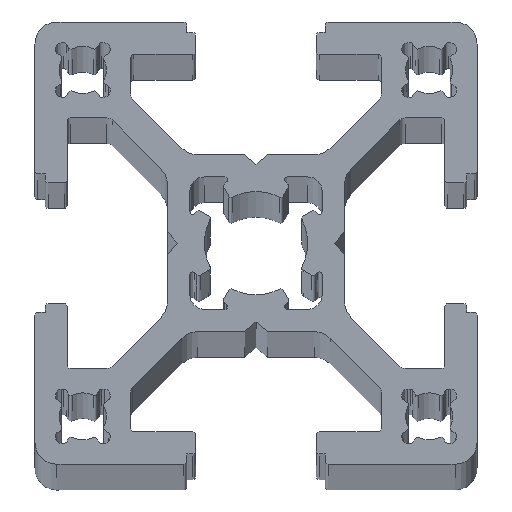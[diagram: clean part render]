
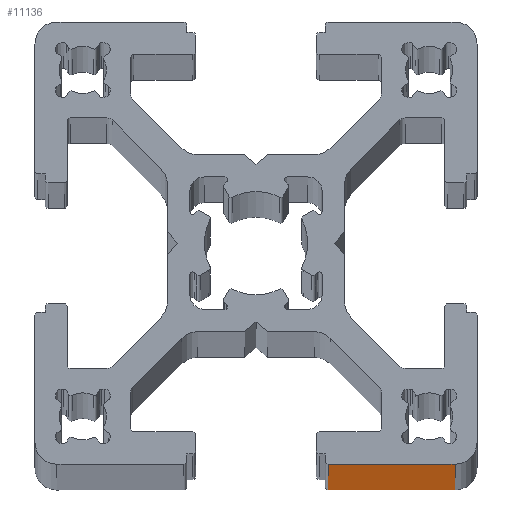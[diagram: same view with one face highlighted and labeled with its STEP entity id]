
A CAD part, top view. The second image highlights one B-rep face of the part: STEP entity #11136.
In plain terms, the highlighted planar face has unit normal (0, -1, 0).
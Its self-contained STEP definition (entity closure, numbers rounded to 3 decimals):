
#526 = LINE ( 'NONE', #10167, #8180 ) ;
#577 = EDGE_CURVE ( 'NONE', #1135, #4678, #4855, .T. ) ;
#1104 = VECTOR ( 'NONE', #2366, 1000. ) ;
#1135 = VERTEX_POINT ( 'NONE', #3392 ) ;
#1167 = ORIENTED_EDGE ( 'NONE', *, *, #2397, .F. ) ;
#1714 = LINE ( 'NONE', #7199, #4290 ) ;
#2065 = CARTESIAN_POINT ( 'NONE',  ( 4.9, -15., 0. ) ) ;
#2241 = DIRECTION ( 'NONE',  ( -1., 0., 0. ) ) ;
#2322 = ORIENTED_EDGE ( 'NONE', *, *, #2479, .T. ) ;
#2366 = DIRECTION ( 'NONE',  ( -1., 0., 0. ) ) ;
#2378 = DIRECTION ( 'NONE',  ( 0., 0., 1. ) ) ;
#2397 = EDGE_CURVE ( 'NONE', #10616, #4678, #1714, .T. ) ;
#2430 = VERTEX_POINT ( 'NONE', #12000 ) ;
#2479 = EDGE_CURVE ( 'NONE', #2430, #1135, #526, .T. ) ;
#3016 = DIRECTION ( 'NONE',  ( 0., 1., 0. ) ) ;
#3392 = CARTESIAN_POINT ( 'NONE',  ( 13.5, -15., 0. ) ) ;
#3865 = EDGE_LOOP ( 'NONE', ( #8272, #1167, #9168, #2322 ) ) ;
#4290 = VECTOR ( 'NONE', #2378, 1000. ) ;
#4678 = VERTEX_POINT ( 'NONE', #2065 ) ;
#4846 = EDGE_CURVE ( 'NONE', #2430, #10616, #6534, .T. ) ;
#4855 = LINE ( 'NONE', #10625, #7118 ) ;
#5935 = CARTESIAN_POINT ( 'NONE',  ( 4.9, -15., -1000. ) ) ;
#6339 = DIRECTION ( 'NONE',  ( 0., 0., 1. ) ) ;
#6534 = LINE ( 'NONE', #9064, #1104 ) ;
#6857 = PLANE ( 'NONE',  #8428 ) ;
#7118 = VECTOR ( 'NONE', #2241, 1000. ) ;
#7199 = CARTESIAN_POINT ( 'NONE',  ( 4.9, -15., -1000. ) ) ;
#8180 = VECTOR ( 'NONE', #6339, 1000. ) ;
#8272 = ORIENTED_EDGE ( 'NONE', *, *, #577, .T. ) ;
#8428 = AXIS2_PLACEMENT_3D ( 'NONE', #10633, #3016, #9715 ) ;
#9064 = CARTESIAN_POINT ( 'NONE',  ( 13.5, -15., -1000. ) ) ;
#9168 = ORIENTED_EDGE ( 'NONE', *, *, #4846, .F. ) ;
#9715 = DIRECTION ( 'NONE',  ( 0., 0., 1. ) ) ;
#10167 = CARTESIAN_POINT ( 'NONE',  ( 13.5, -15., -1000. ) ) ;
#10545 = FACE_OUTER_BOUND ( 'NONE', #3865, .T. ) ;
#10616 = VERTEX_POINT ( 'NONE', #5935 ) ;
#10625 = CARTESIAN_POINT ( 'NONE',  ( 13.5, -15., 0. ) ) ;
#10633 = CARTESIAN_POINT ( 'NONE',  ( 13.5, -15., -1000. ) ) ;
#11136 = ADVANCED_FACE ( 'NONE', ( #10545 ), #6857, .F. ) ;
#12000 = CARTESIAN_POINT ( 'NONE',  ( 13.5, -15., -1000. ) ) ;
